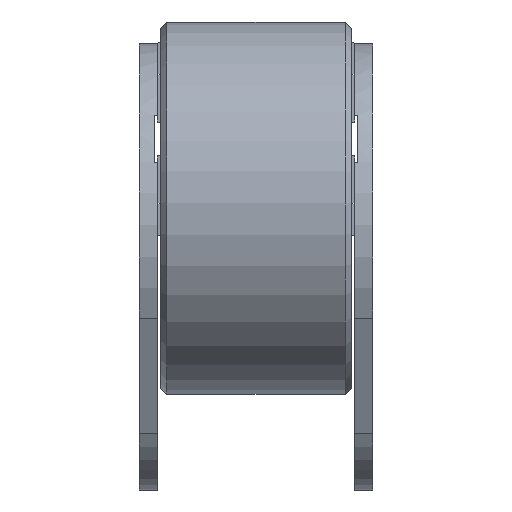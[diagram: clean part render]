
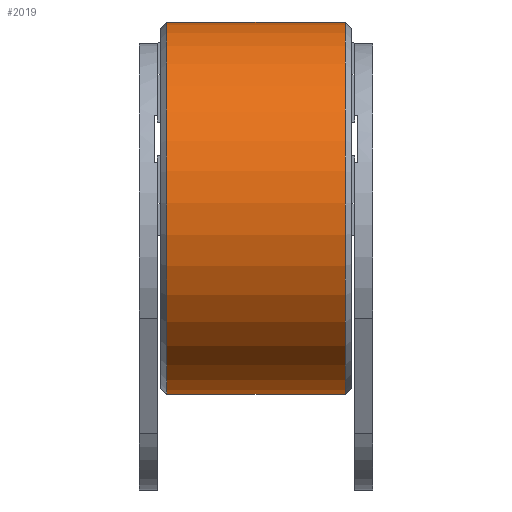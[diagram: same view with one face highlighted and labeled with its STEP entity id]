
A CAD part, left-side view. The second image highlights one B-rep face of the part: STEP entity #2019.
In plain terms, the highlighted cylindrical face has radius 60.5 mm (diameter 121 mm), a partial arc.
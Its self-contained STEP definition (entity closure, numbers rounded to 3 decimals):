
#1816=CARTESIAN_POINT('',(-432.46,29.,-118.551));
#1817=VERTEX_POINT('',#1816);
#1847=CARTESIAN_POINT('',(-432.46,-29.,-118.551));
#1848=VERTEX_POINT('',#1847);
#1855=CARTESIAN_POINT('',(-432.46,29.,-118.551));
#1856=DIRECTION('',(0.,-1.0,0.));
#1857=VECTOR('',#1856,58.);
#1858=LINE('',#1855,#1857);
#1859=EDGE_CURVE('',#1817,#1848,#1858,.T.);
#1968=CARTESIAN_POINT('',(-449.5,29.,0.));
#1969=VERTEX_POINT('',#1968);
#1970=CARTESIAN_POINT('',(-449.5,29.,-60.5));
#1971=DIRECTION('',(0.,-1.,0.));
#1972=DIRECTION('',(-0.282,0.,0.96));
#1973=AXIS2_PLACEMENT_3D('',#1970,#1971,#1972);
#1974=CIRCLE('',#1973,60.5);
#1975=EDGE_CURVE('',#1969,#1817,#1974,.T.);
#1995=CARTESIAN_POINT('',(-449.5,0.,-60.5));
#1996=DIRECTION('',(0.0,-1.0,0.));
#1997=DIRECTION('',(-0.282,0.,0.96));
#1998=AXIS2_PLACEMENT_3D('',#1995,#1996,#1997);
#1999=CYLINDRICAL_SURFACE('',#1998,60.5);
#2000=ORIENTED_EDGE('',*,*,#1859,.T.);
#2001=CARTESIAN_POINT('',(-449.5,-29.0,0.));
#2002=VERTEX_POINT('',#2001);
#2003=CARTESIAN_POINT('',(-449.5,-29.,-60.5));
#2004=DIRECTION('',(0.,-1.0,0.));
#2005=DIRECTION('',(-0.282,0.,0.96));
#2006=AXIS2_PLACEMENT_3D('',#2003,#2004,#2005);
#2007=CIRCLE('',#2006,60.5);
#2008=EDGE_CURVE('',#2002,#1848,#2007,.T.);
#2009=ORIENTED_EDGE('',*,*,#2008,.F.);
#2010=CARTESIAN_POINT('',(-449.5,29.,0.));
#2011=DIRECTION('',(0.0,-1.0,0.0));
#2012=VECTOR('',#2011,58.);
#2013=LINE('',#2010,#2012);
#2014=EDGE_CURVE('',#1969,#2002,#2013,.T.);
#2015=ORIENTED_EDGE('',*,*,#2014,.F.);
#2016=ORIENTED_EDGE('',*,*,#1975,.T.);
#2017=EDGE_LOOP('',(#2000,#2009,#2015,#2016));
#2018=FACE_OUTER_BOUND('',#2017,.T.);
#2019=ADVANCED_FACE('',(#2018),#1999,.T.);
